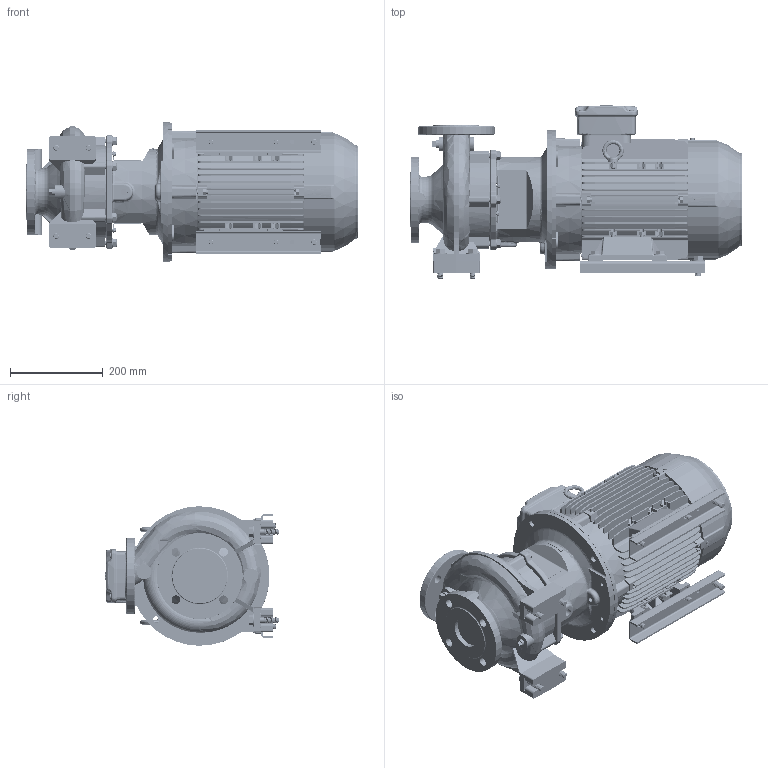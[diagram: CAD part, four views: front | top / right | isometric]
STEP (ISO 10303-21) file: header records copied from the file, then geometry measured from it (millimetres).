
FILE_DESCRIPTION (( 'STEP AP214' ), '1' );
FILE_NAME ('GSD2 50-125_5.5 & 7.5_(132S)_W21.STEP', '2026-07-02T06:52:31', ( '' ), ( '' ), 'SwSTEP 2.0', 'SolidWorks 2024', '' );
FILE_SCHEMA (( 'AUTOMOTIVE_DESIGN' ));
Length unit declared in the file: millimetre
Products named in the file (13): Parametric bolt_SFT-A253B; Parametric bolt_SFT-A301B; 140_178 x 25 - CGSDA-5240; Parametric Flat Washer_M10; 50-125-132S; GSD2  50-125_5.5 & 7.5_(132S)_W21; Parametric bolt_SFT-A309B; 132S ALIE3_W21T_B35; Parametric Flat Washer_M12; Parametric bolt and washer_SFT-A309B; Parametric bolt and washer_SFT-A253B; Parametric bolt and washer_SFT-A301B; CGS11-5301_2_3_4_5_CGS11-5302
Assembly tree (22 placements, depth 3):
  GSD2  50-125_5.5 & 7.5_(132S)_W21
    50-125-132S
    CGS11-5301_2_3_4_5_CGS11-5302  x2
    140_178 x 25 - CGSDA-5240  x2
    Parametric bolt and washer_SFT-A309B  x4
      Parametric bolt_SFT-A309B
      Parametric Flat Washer_M12
    Parametric bolt and washer_SFT-A301B  x2
      Parametric bolt_SFT-A301B
      Parametric Flat Washer_M12
    Parametric bolt and washer_SFT-A253B  x4
      Parametric bolt_SFT-A253B
      Parametric Flat Washer_M10
    132S ALIE3_W21T_B35
Bounding box: 714.8 x 372.5 x 300 mm (x, y, z)
Volume: 27355624.5 mm3; surface area: 1914776 mm2
Topology: 38 solids, 38 shells, 4872 faces, 12752 edges, 8296 vertices
Faces by surface type: plane 2903, cylinder 1166, torus 286, bspline 270, cone 215, sphere 32
Entity records: 163469 total; most frequent: CARTESIAN_POINT 56744, ORIENTED_EDGE 23002, DIRECTION 20684, EDGE_CURVE 11501, VECTOR 7698, LINE 7698, VERTEX_POINT 7491, AXIS2_PLACEMENT_3D 6493
